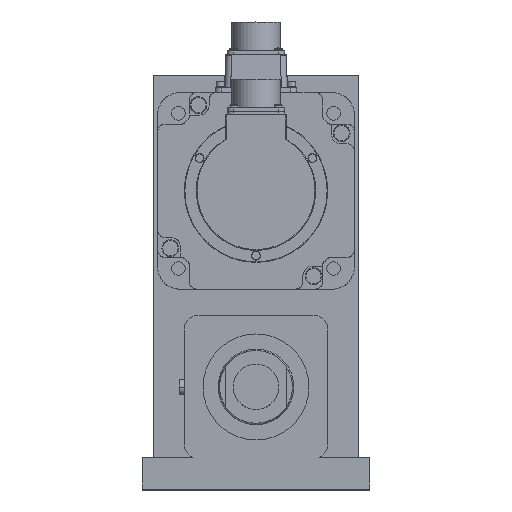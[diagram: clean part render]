
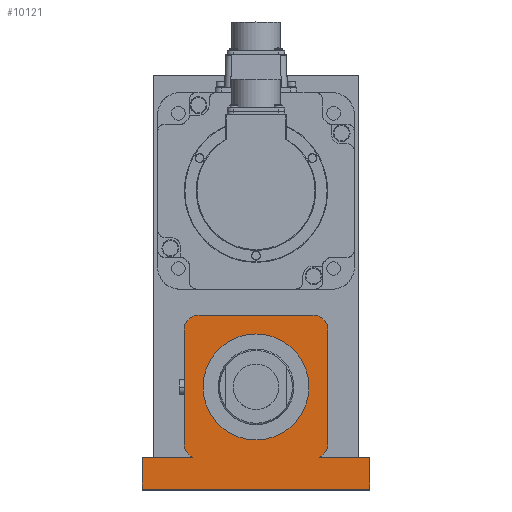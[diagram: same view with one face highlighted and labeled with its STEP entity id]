
A CAD part, top view. The second image highlights one B-rep face of the part: STEP entity #10121.
In plain terms, the highlighted planar face has unit normal (0, 0, 1).
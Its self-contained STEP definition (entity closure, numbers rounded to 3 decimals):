
#56 = CARTESIAN_POINT ( 'NONE',  ( -37.5, -37.5, 270. ) ) ;
#76 = VERTEX_POINT ( 'NONE', #7369 ) ;
#194 = ORIENTED_EDGE ( 'NONE', *, *, #23878, .T. ) ;
#370 = DIRECTION ( 'NONE',  ( 0., 0., 1. ) ) ;
#623 = DIRECTION ( 'NONE',  ( 1., 0., 0. ) ) ;
#1096 = CARTESIAN_POINT ( 'NONE',  ( -37.5, 47.5, 270. ) ) ;
#1222 = AXIS2_PLACEMENT_3D ( 'NONE', #24292, #370, #2546 ) ;
#1329 = CARTESIAN_POINT ( 'NONE',  ( -75., -46.5, 270. ) ) ;
#1484 = CARTESIAN_POINT ( 'NONE',  ( 37.5, 47.5, 270. ) ) ;
#1769 = DIRECTION ( 'NONE',  ( 1., 0., 0. ) ) ;
#2433 = DIRECTION ( 'NONE',  ( -1., 0., 0. ) ) ;
#2546 = DIRECTION ( 'NONE',  ( 1., 0., 0. ) ) ;
#3503 = DIRECTION ( 'NONE',  ( 0., -1., 0. ) ) ;
#3695 = DIRECTION ( 'NONE',  ( -1., 0., 0. ) ) ;
#3703 = CIRCLE ( 'NONE', #9295, 10. ) ;
#3826 = CARTESIAN_POINT ( 'NONE',  ( 41.859, -46.5, 270. ) ) ;
#4162 = ORIENTED_EDGE ( 'NONE', *, *, #25062, .T. ) ;
#4566 = VECTOR ( 'NONE', #22708, 1000. ) ;
#4968 = EDGE_CURVE ( 'NONE', #5134, #27833, #15759, .T. ) ;
#5134 = VERTEX_POINT ( 'NONE', #16948 ) ;
#5225 = AXIS2_PLACEMENT_3D ( 'NONE', #13452, #13148, #15230 ) ;
#5798 = DIRECTION ( 'NONE',  ( 0., 0., 1. ) ) ;
#5848 = AXIS2_PLACEMENT_3D ( 'NONE', #27404, #5798, #3695 ) ;
#6248 = AXIS2_PLACEMENT_3D ( 'NONE', #11772, #9631, #9815 ) ;
#6305 = EDGE_CURVE ( 'NONE', #19466, #12924, #17738, .T. ) ;
#6457 = VERTEX_POINT ( 'NONE', #13720 ) ;
#6654 = CARTESIAN_POINT ( 'NONE',  ( 47.5, -37.5, 270. ) ) ;
#6669 = EDGE_CURVE ( 'NONE', #10705, #13122, #7931, .T. ) ;
#7112 = CARTESIAN_POINT ( 'NONE',  ( 35., 0., 270. ) ) ;
#7338 = CARTESIAN_POINT ( 'NONE',  ( 75., -67.5, 270. ) ) ;
#7369 = CARTESIAN_POINT ( 'NONE',  ( -41.859, -46.5, 270. ) ) ;
#7642 = ORIENTED_EDGE ( 'NONE', *, *, #9658, .T. ) ;
#7708 = ORIENTED_EDGE ( 'NONE', *, *, #13780, .F. ) ;
#7882 = LINE ( 'NONE', #12874, #11270 ) ;
#7931 = LINE ( 'NONE', #12081, #18706 ) ;
#8222 = CARTESIAN_POINT ( 'NONE',  ( -47.5, -37.5, 270. ) ) ;
#8483 = ORIENTED_EDGE ( 'NONE', *, *, #20576, .T. ) ;
#8721 = CARTESIAN_POINT ( 'NONE',  ( 0., 0., 270. ) ) ;
#8805 = EDGE_CURVE ( 'NONE', #27833, #17477, #21615, .T. ) ;
#8892 = ORIENTED_EDGE ( 'NONE', *, *, #23159, .T. ) ;
#9295 = AXIS2_PLACEMENT_3D ( 'NONE', #56, #21722, #2433 ) ;
#9304 = DIRECTION ( 'NONE',  ( 0., 0., 1. ) ) ;
#9322 = LINE ( 'NONE', #1329, #4566 ) ;
#9454 = LINE ( 'NONE', #7338, #26643 ) ;
#9631 = DIRECTION ( 'NONE',  ( 0., 0., 1. ) ) ;
#9658 = EDGE_CURVE ( 'NONE', #24867, #17543, #9454, .T. ) ;
#9775 = ORIENTED_EDGE ( 'NONE', *, *, #20288, .T. ) ;
#9815 = DIRECTION ( 'NONE',  ( 1., 0., 0. ) ) ;
#10121 = ADVANCED_FACE ( 'NONE', ( #15819, #21889 ), #13630, .T. ) ;
#10139 = CARTESIAN_POINT ( 'NONE',  ( 75., -46.5, 270. ) ) ;
#10240 = LINE ( 'NONE', #15752, #21688 ) ;
#10626 = DIRECTION ( 'NONE',  ( 0., 0., 1. ) ) ;
#10705 = VERTEX_POINT ( 'NONE', #24226 ) ;
#10759 = CIRCLE ( 'NONE', #5225, 10. ) ;
#11270 = VECTOR ( 'NONE', #21550, 1000. ) ;
#11423 = ORIENTED_EDGE ( 'NONE', *, *, #18465, .T. ) ;
#11462 = ORIENTED_EDGE ( 'NONE', *, *, #4968, .T. ) ;
#11772 = CARTESIAN_POINT ( 'NONE',  ( 37.5, 37.5, 270. ) ) ;
#12081 = CARTESIAN_POINT ( 'NONE',  ( -47.5, -37.5, 270. ) ) ;
#12524 = CARTESIAN_POINT ( 'NONE',  ( 75., -67.5, 270. ) ) ;
#12874 = CARTESIAN_POINT ( 'NONE',  ( 47.5, -37.5, 270. ) ) ;
#12924 = VERTEX_POINT ( 'NONE', #7112 ) ;
#13122 = VERTEX_POINT ( 'NONE', #8222 ) ;
#13148 = DIRECTION ( 'NONE',  ( 0., 0., 1. ) ) ;
#13392 = DIRECTION ( 'NONE',  ( -1., 0., 0. ) ) ;
#13452 = CARTESIAN_POINT ( 'NONE',  ( -37.5, 37.5, 270. ) ) ;
#13468 = VECTOR ( 'NONE', #13392, 1000. ) ;
#13630 = PLANE ( 'NONE',  #17030 ) ;
#13720 = CARTESIAN_POINT ( 'NONE',  ( -75., -67.5, 270. ) ) ;
#13780 = EDGE_CURVE ( 'NONE', #12924, #19466, #19698, .T. ) ;
#13822 = ORIENTED_EDGE ( 'NONE', *, *, #8805, .T. ) ;
#13888 = ORIENTED_EDGE ( 'NONE', *, *, #17311, .T. ) ;
#13969 = CARTESIAN_POINT ( 'NONE',  ( 37.5, 47.5, 270. ) ) ;
#14017 = CARTESIAN_POINT ( 'NONE',  ( -75., -46.5, 270. ) ) ;
#15230 = DIRECTION ( 'NONE',  ( -1., 0., 0. ) ) ;
#15412 = VECTOR ( 'NONE', #1769, 1000. ) ;
#15557 = CARTESIAN_POINT ( 'NONE',  ( 36.5, -46.5, 270. ) ) ;
#15752 = CARTESIAN_POINT ( 'NONE',  ( 36.5, -46.5, 270. ) ) ;
#15759 = CIRCLE ( 'NONE', #6248, 10. ) ;
#15819 = FACE_OUTER_BOUND ( 'NONE', #20684, .T. ) ;
#16032 = AXIS2_PLACEMENT_3D ( 'NONE', #8721, #10626, #23783 ) ;
#16246 = VECTOR ( 'NONE', #21082, 1000. ) ;
#16388 = EDGE_LOOP ( 'NONE', ( #26132, #7708 ) ) ;
#16948 = CARTESIAN_POINT ( 'NONE',  ( 47.5, 37.5, 270. ) ) ;
#17030 = AXIS2_PLACEMENT_3D ( 'NONE', #22189, #9304, #623 ) ;
#17311 = EDGE_CURVE ( 'NONE', #17477, #10705, #10759, .T. ) ;
#17477 = VERTEX_POINT ( 'NONE', #1096 ) ;
#17543 = VERTEX_POINT ( 'NONE', #10139 ) ;
#17579 = ORIENTED_EDGE ( 'NONE', *, *, #6669, .T. ) ;
#17738 = CIRCLE ( 'NONE', #16032, 35. ) ;
#18465 = EDGE_CURVE ( 'NONE', #76, #25335, #10240, .T. ) ;
#18491 = LINE ( 'NONE', #15557, #13468 ) ;
#18519 = CIRCLE ( 'NONE', #5848, 10. ) ;
#18706 = VECTOR ( 'NONE', #3503, 1000. ) ;
#19009 = CARTESIAN_POINT ( 'NONE',  ( -75., -67.5, 270. ) ) ;
#19466 = VERTEX_POINT ( 'NONE', #23587 ) ;
#19698 = CIRCLE ( 'NONE', #1222, 35. ) ;
#20288 = EDGE_CURVE ( 'NONE', #13122, #76, #3703, .T. ) ;
#20366 = VERTEX_POINT ( 'NONE', #6654 ) ;
#20430 = DIRECTION ( 'NONE',  ( 0., 1., 0. ) ) ;
#20576 = EDGE_CURVE ( 'NONE', #21799, #20366, #18519, .T. ) ;
#20684 = EDGE_LOOP ( 'NONE', ( #9775, #11423, #8892, #23426, #7642, #4162, #8483, #194, #11462, #13822, #13888, #17579 ) ) ;
#21082 = DIRECTION ( 'NONE',  ( -1., 0., 0. ) ) ;
#21129 = LINE ( 'NONE', #19009, #15412 ) ;
#21550 = DIRECTION ( 'NONE',  ( 0., 1., 0. ) ) ;
#21615 = LINE ( 'NONE', #1484, #16246 ) ;
#21688 = VECTOR ( 'NONE', #24315, 1000. ) ;
#21722 = DIRECTION ( 'NONE',  ( 0., 0., 1. ) ) ;
#21799 = VERTEX_POINT ( 'NONE', #3826 ) ;
#21889 = FACE_BOUND ( 'NONE', #16388, .T. ) ;
#22189 = CARTESIAN_POINT ( 'NONE',  ( 37.5, 37.5, 270. ) ) ;
#22708 = DIRECTION ( 'NONE',  ( 0., -1., 0. ) ) ;
#23159 = EDGE_CURVE ( 'NONE', #25335, #6457, #9322, .T. ) ;
#23426 = ORIENTED_EDGE ( 'NONE', *, *, #26879, .T. ) ;
#23587 = CARTESIAN_POINT ( 'NONE',  ( -35., 0., 270. ) ) ;
#23783 = DIRECTION ( 'NONE',  ( 1., 0., 0. ) ) ;
#23878 = EDGE_CURVE ( 'NONE', #20366, #5134, #7882, .T. ) ;
#24226 = CARTESIAN_POINT ( 'NONE',  ( -47.5, 37.5, 270. ) ) ;
#24292 = CARTESIAN_POINT ( 'NONE',  ( 0., 0., 270. ) ) ;
#24315 = DIRECTION ( 'NONE',  ( -1., 0., 0. ) ) ;
#24867 = VERTEX_POINT ( 'NONE', #12524 ) ;
#25062 = EDGE_CURVE ( 'NONE', #17543, #21799, #18491, .T. ) ;
#25335 = VERTEX_POINT ( 'NONE', #14017 ) ;
#26132 = ORIENTED_EDGE ( 'NONE', *, *, #6305, .F. ) ;
#26643 = VECTOR ( 'NONE', #20430, 1000. ) ;
#26879 = EDGE_CURVE ( 'NONE', #6457, #24867, #21129, .T. ) ;
#27404 = CARTESIAN_POINT ( 'NONE',  ( 37.5, -37.5, 270. ) ) ;
#27833 = VERTEX_POINT ( 'NONE', #13969 ) ;
